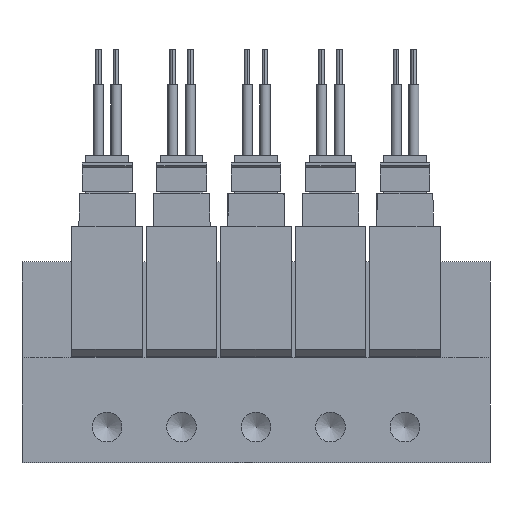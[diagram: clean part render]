
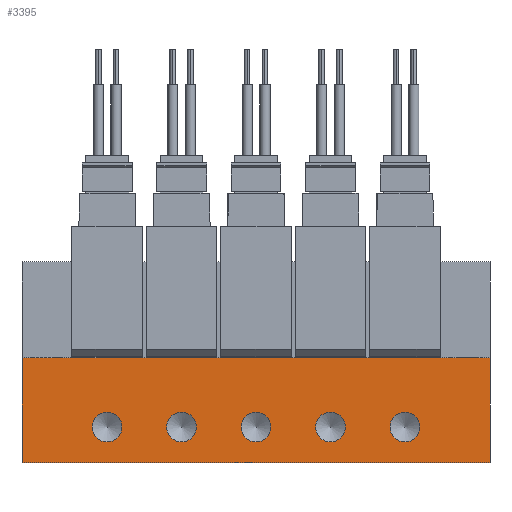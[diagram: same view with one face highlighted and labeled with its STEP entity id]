
A CAD part, front view. The second image highlights one B-rep face of the part: STEP entity #3395.
In plain terms, the highlighted planar face has unit normal (0, -1, 0).
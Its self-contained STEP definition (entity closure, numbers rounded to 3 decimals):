
#3395=ADVANCED_FACE('',(#5498,#5499,#5500,#5501,#5502,#5503),#5504,.F.);
#5498=FACE_BOUND('',#9865,.T.);
#5499=FACE_BOUND('',#9866,.T.);
#5500=FACE_BOUND('',#9867,.T.);
#5501=FACE_BOUND('',#9868,.T.);
#5502=FACE_BOUND('',#9869,.T.);
#5503=FACE_OUTER_BOUND('',#9870,.T.);
#5504=PLANE('',#9871);
#9865=EDGE_LOOP('',(#15360));
#9866=EDGE_LOOP('',(#15361));
#9867=EDGE_LOOP('',(#15362));
#9868=EDGE_LOOP('',(#15363));
#9869=EDGE_LOOP('',(#15364));
#9870=EDGE_LOOP('',(#15365,#15366,#15367,#15368));
#9871=AXIS2_PLACEMENT_3D('',#15369,#15370,#15371);
#15360=ORIENTED_EDGE('',*,*,#32059,.F.);
#15361=ORIENTED_EDGE('',*,*,#32083,.F.);
#15362=ORIENTED_EDGE('',*,*,#32084,.F.);
#15363=ORIENTED_EDGE('',*,*,#32085,.F.);
#15364=ORIENTED_EDGE('',*,*,#32086,.F.);
#15365=ORIENTED_EDGE('',*,*,#32087,.F.);
#15366=ORIENTED_EDGE('',*,*,#32088,.F.);
#15367=ORIENTED_EDGE('',*,*,#32089,.T.);
#15368=ORIENTED_EDGE('',*,*,#32081,.T.);
#15369=CARTESIAN_POINT('',(-66.0,0.,14.8));
#15370=DIRECTION('',(0.0,1.0,0.));
#15371=DIRECTION('',(0.0,0.,1.0));
#32059=EDGE_CURVE('',#37481,#37481,#37482,.T.);
#32081=EDGE_CURVE('',#37522,#37520,#37523,.T.);
#32083=EDGE_CURVE('',#37525,#37525,#37526,.T.);
#32084=EDGE_CURVE('',#37527,#37527,#37528,.T.);
#32085=EDGE_CURVE('',#37529,#37529,#37530,.T.);
#32086=EDGE_CURVE('',#37531,#37531,#37532,.T.);
#32087=EDGE_CURVE('',#37533,#37520,#37534,.T.);
#32088=EDGE_CURVE('',#37535,#37533,#37536,.T.);
#32089=EDGE_CURVE('',#37535,#37522,#37537,.T.);
#37481=VERTEX_POINT('',#46643);
#37482=CIRCLE('',#46644,2.1);
#37520=VERTEX_POINT('',#46695);
#37522=VERTEX_POINT('',#46698);
#37523=LINE('',#46699,#46700);
#37525=VERTEX_POINT('',#46703);
#37526=CIRCLE('',#46704,2.1);
#37527=VERTEX_POINT('',#46705);
#37528=CIRCLE('',#46706,2.1);
#37529=VERTEX_POINT('',#46707);
#37530=CIRCLE('',#46708,2.1);
#37531=VERTEX_POINT('',#46709);
#37532=CIRCLE('',#46710,2.1);
#37533=VERTEX_POINT('',#46711);
#37534=LINE('',#46712,#46713);
#37535=VERTEX_POINT('',#46714);
#37536=LINE('',#46715,#46716);
#37537=LINE('',#46717,#46718);
#46643=CARTESIAN_POINT('',(-54.0,0.,2.9));
#46644=AXIS2_PLACEMENT_3D('',#59802,#59803,#59804);
#46695=CARTESIAN_POINT('',(0.0,0.0,0.0));
#46698=CARTESIAN_POINT('',(-66.0,0.0,0.0));
#46699=CARTESIAN_POINT('',(-66.0,0.0,0.0));
#46700=VECTOR('',#59840,1.0);
#46703=CARTESIAN_POINT('',(-43.5,0.,2.9));
#46704=AXIS2_PLACEMENT_3D('',#59842,#59843,#59844);
#46705=CARTESIAN_POINT('',(-33.0,0.,2.9));
#46706=AXIS2_PLACEMENT_3D('',#59845,#59846,#59847);
#46707=CARTESIAN_POINT('',(-22.5,0.,2.9));
#46708=AXIS2_PLACEMENT_3D('',#59848,#59849,#59850);
#46709=CARTESIAN_POINT('',(-12.0,0.,2.9));
#46710=AXIS2_PLACEMENT_3D('',#59851,#59852,#59853);
#46711=CARTESIAN_POINT('',(0.0,0.,14.8));
#46712=CARTESIAN_POINT('',(0.0,0.,14.8));
#46713=VECTOR('',#59854,1.0);
#46714=CARTESIAN_POINT('',(-66.0,0.,14.8));
#46715=CARTESIAN_POINT('',(-66.0,0.,14.8));
#46716=VECTOR('',#59855,1.0);
#46717=CARTESIAN_POINT('',(-66.0,0.,14.8));
#46718=VECTOR('',#59856,1.0);
#59802=CARTESIAN_POINT('',(-54.0,0.0,5.0));
#59803=DIRECTION('',(0.0,-1.0,0.));
#59804=DIRECTION('',(0.0,0.,-1.0));
#59840=DIRECTION('',(1.0,0.0,0.0));
#59842=CARTESIAN_POINT('',(-43.5,0.0,5.0));
#59843=DIRECTION('',(0.0,-1.0,0.));
#59844=DIRECTION('',(0.0,0.,-1.0));
#59845=CARTESIAN_POINT('',(-33.0,0.0,5.0));
#59846=DIRECTION('',(0.0,-1.0,0.));
#59847=DIRECTION('',(0.0,0.,-1.0));
#59848=CARTESIAN_POINT('',(-22.5,0.0,5.0));
#59849=DIRECTION('',(0.0,-1.0,0.));
#59850=DIRECTION('',(0.0,0.,-1.0));
#59851=CARTESIAN_POINT('',(-12.0,0.0,5.0));
#59852=DIRECTION('',(0.0,-1.0,0.));
#59853=DIRECTION('',(0.0,0.,-1.0));
#59854=DIRECTION('',(0.0,0.,-1.0));
#59855=DIRECTION('',(1.0,0.0,0.0));
#59856=DIRECTION('',(0.0,0.,-1.0));
